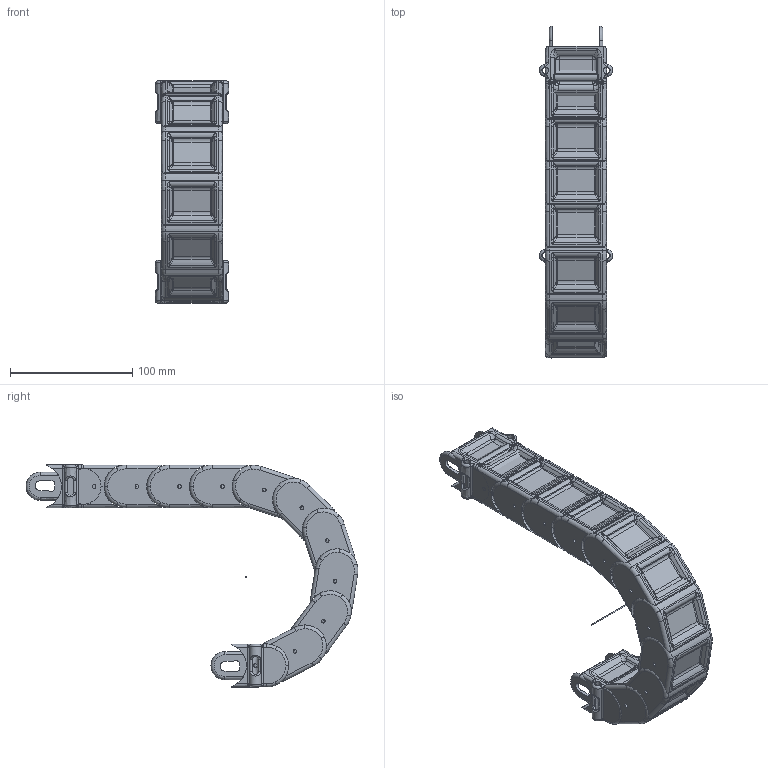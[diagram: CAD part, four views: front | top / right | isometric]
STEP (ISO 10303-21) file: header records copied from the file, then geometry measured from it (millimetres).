
FILE_DESCRIPTION((''),'2;1');
FILE_NAME('C:\Uebbing\PARAMETERKETTEN\PFR\PFR 122\PFR 122 K_N_Anschluss_PARAMETRISCH.stp','2012-03-30T08:10:44',('Uebbing'),(''),'Autodesk Inventor 10','Autodesk Inventor 10','');
FILE_SCHEMA(('AUTOMOTIVE_DESIGN { 1 0 10303 214 1 1 1 1 }'));
Length unit declared in the file: millimetre
Products named in the file (4): PFR 122 K_N_Anschluss_PARAMETRISCH; PFR122 Kunststoffanschluss; Achse; PFR122 Glied R75 
Assembly tree (13 placements, depth 2):
  PFR 122 K_N_Anschluss_PARAMETRISCH
    PFR122 Kunststoffanschluss  x2
    Achse
    PFR122 Glied R75   x10
Bounding box: 60 x 271.94 x 181.95 mm (x, y, z)
Volume: 248910.8 mm3; surface area: 180631.1 mm2
Topology: 13 solids, 13 shells, 2147 faces, 5468 edges, 3255 vertices
Faces by surface type: bspline 1184, plane 454, cylinder 445, torus 64
Full cylindrical faces by diameter (mm): 1 x1, 3 x12, 5 x2
Entity records: 24983 total; most frequent: CARTESIAN_POINT 16411, ORIENTED_EDGE 1888, DIRECTION 1552, EDGE_CURVE 944, VERTEX_POINT 574, AXIS2_PLACEMENT_3D 550, VECTOR 452, LINE 452
